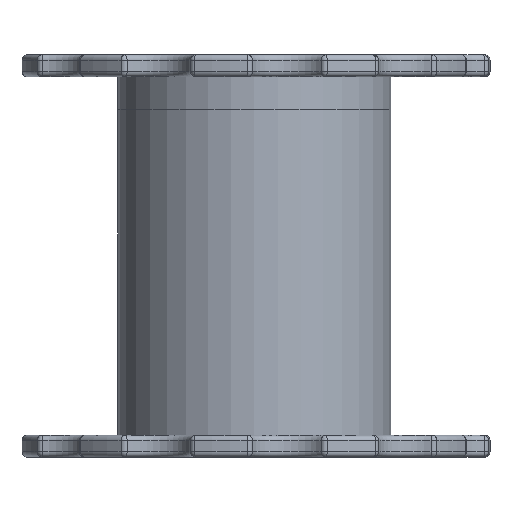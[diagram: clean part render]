
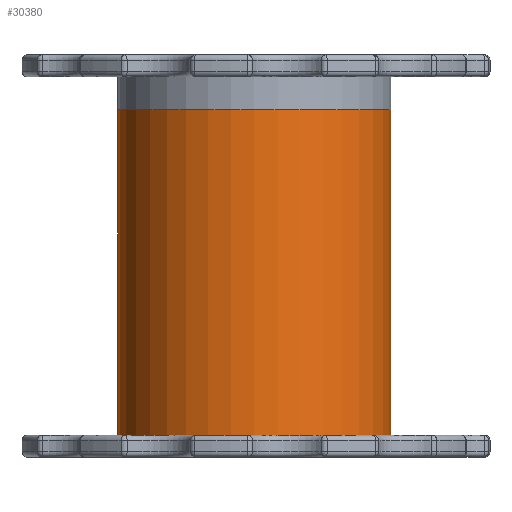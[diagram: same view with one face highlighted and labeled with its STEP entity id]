
A CAD part, left-side view. The second image highlights one B-rep face of the part: STEP entity #30380.
In plain terms, the highlighted cylindrical face has radius 24.75 mm (diameter 49.5 mm), a full revolution.
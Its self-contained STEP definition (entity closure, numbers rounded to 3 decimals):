
#2465=FACE_OUTER_BOUND('',#4289,.T.);
#4289=EDGE_LOOP('',(#23280,#23281,#23282,#23283));
#6260=CIRCLE('',#32162,24.75);
#6327=CIRCLE('',#32297,24.75);
#7910=LINE('',#46316,#11270);
#11270=VECTOR('',#36136,24.75);
#14756=VERTEX_POINT('',#46136);
#14778=VERTEX_POINT('',#46314);
#17879=EDGE_CURVE('',#14756,#14756,#6260,.T.);
#17967=EDGE_CURVE('',#14778,#14778,#6327,.T.);
#17968=EDGE_CURVE('',#14778,#14756,#7910,.T.);
#23280=ORIENTED_EDGE('',*,*,#17967,.F.);
#23281=ORIENTED_EDGE('',*,*,#17968,.T.);
#23282=ORIENTED_EDGE('',*,*,#17879,.T.);
#23283=ORIENTED_EDGE('',*,*,#17968,.F.);
#29801=CYLINDRICAL_SURFACE('',#32296,24.75);
#30380=ADVANCED_FACE('',(#2465),#29801,.T.);
#32162=AXIS2_PLACEMENT_3D('',#46137,#35843,#35844);
#32296=AXIS2_PLACEMENT_3D('',#46313,#36132,#36133);
#32297=AXIS2_PLACEMENT_3D('',#46315,#36134,#36135);
#35843=DIRECTION('center_axis',(0.,0.,1.));
#35844=DIRECTION('ref_axis',(1.,0.,0.));
#36132=DIRECTION('center_axis',(0.,0.,1.));
#36133=DIRECTION('ref_axis',(1.,0.,0.));
#36134=DIRECTION('center_axis',(0.,0.,1.));
#36135=DIRECTION('ref_axis',(1.,0.,0.));
#36136=DIRECTION('',(0.,0.,-1.));
#46136=CARTESIAN_POINT('',(-24.75,0.,4.));
#46137=CARTESIAN_POINT('Origin',(0.,0.,4.));
#46313=CARTESIAN_POINT('Origin',(0.,0.,0.));
#46314=CARTESIAN_POINT('',(-24.75,0.,63.));
#46315=CARTESIAN_POINT('Origin',(0.,0.,63.));
#46316=CARTESIAN_POINT('',(-24.75,0.,0.));
